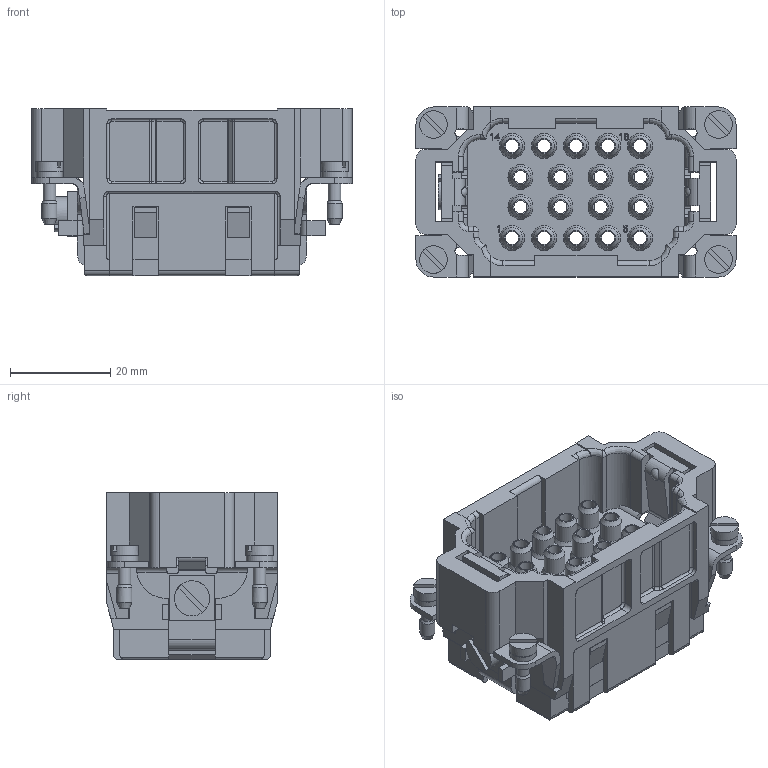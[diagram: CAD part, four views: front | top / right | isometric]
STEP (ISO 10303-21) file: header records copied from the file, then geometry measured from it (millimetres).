
FILE_DESCRIPTION(/* description */ (''),/* implementation_level */ '2;1');
FILE_NAME(/* name */ 'HEE-018-M.stp',/* time_stamp */ '2023-09-25T09:39:05+08:00',/* author */ (''),/* organization */ (''),/* preprocessor_version */ 'ST-DEVELOPER v16.7',/* originating_system */ 'SIEMENS PLM Software NX 12.0',/* authorisation */ '');
FILE_SCHEMA (('AUTOMOTIVE_DESIGN { 1 0 10303 214 3 1 1 1 }'));
Length unit declared in the file: millimetre
Products named in the file (1): 09320183001_100142764MOD000C_stp
Bounding box: 64 x 34 x 33.43 mm (x, y, z)
Volume: 28032.6 mm3; surface area: 26083.2 mm2
Topology: 1 solids, 1 shells, 1424 faces, 3764 edges, 2397 vertices
Faces by surface type: plane 791, cylinder 389, cone 116, extrusion 60, bspline 52, sphere 16
Full cylindrical faces by diameter (mm): 2.3 x2, 2.45 x2, 2.5 x4, 2.6 x18, 3 x4, 3.242 x1, 4.2 x18, 4.8 x18, 5.3 x4, 5.5 x4, 7 x1
Entity records: 54805 total; most frequent: CARTESIAN_POINT 10292, ORIENTED_EDGE 7166, DIRECTION 6961, EDGE_CURVE 3583, VERTEX_POINT 2370, AXIS2_PLACEMENT_3D 2343, VECTOR 2275, LINE 2215
